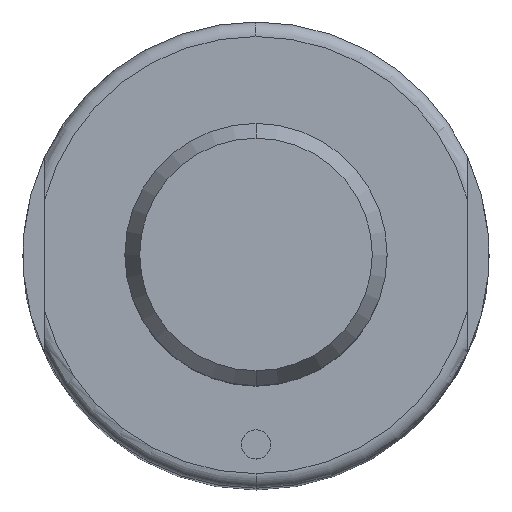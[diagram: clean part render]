
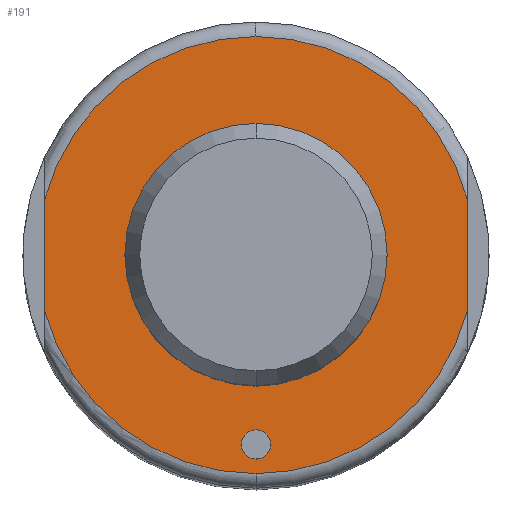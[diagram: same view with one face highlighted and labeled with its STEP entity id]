
A CAD part, top view. The second image highlights one B-rep face of the part: STEP entity #191.
In plain terms, the highlighted planar face has unit normal (0, 0, 1).
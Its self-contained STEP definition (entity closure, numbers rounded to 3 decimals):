
#115=FACE_BOUND('',#292,.T.);
#116=FACE_BOUND('',#293,.T.);
#117=FACE_BOUND('',#294,.T.);
#126=PLANE('',#862);
#191=ADVANCED_FACE('',(#115,#116,#117),#126,.T.);
#292=EDGE_LOOP('',(#515,#516,#517,#518,#519,#520));
#293=EDGE_LOOP('',(#521,#522));
#294=EDGE_LOOP('',(#523,#524));
#303=CIRCLE('',#774,9.);
#304=CIRCLE('',#776,9.);
#310=CIRCLE('',#786,1.);
#311=CIRCLE('',#788,1.);
#343=CIRCLE('',#846,15.);
#344=CIRCLE('',#848,15.);
#348=CIRCLE('',#854,15.);
#352=CIRCLE('',#860,15.);
#515=ORIENTED_EDGE('',*,*,#691,.F.);
#516=ORIENTED_EDGE('',*,*,#690,.F.);
#517=ORIENTED_EDGE('',*,*,#674,.F.);
#518=ORIENTED_EDGE('',*,*,#692,.F.);
#519=ORIENTED_EDGE('',*,*,#672,.F.);
#520=ORIENTED_EDGE('',*,*,#683,.F.);
#521=ORIENTED_EDGE('',*,*,#621,.F.);
#522=ORIENTED_EDGE('',*,*,#620,.F.);
#523=ORIENTED_EDGE('',*,*,#610,.T.);
#524=ORIENTED_EDGE('',*,*,#608,.T.);
#545=VERTEX_POINT('',#1117);
#546=VERTEX_POINT('',#1119);
#551=VERTEX_POINT('',#1138);
#554=VERTEX_POINT('',#1143);
#586=VERTEX_POINT('',#1259);
#588=VERTEX_POINT('',#1263);
#589=VERTEX_POINT('',#1274);
#591=VERTEX_POINT('',#1277);
#595=VERTEX_POINT('',#1298);
#600=VERTEX_POINT('',#1319);
#608=EDGE_CURVE('',#546,#545,#303,.T.);
#610=EDGE_CURVE('',#545,#546,#304,.T.);
#620=EDGE_CURVE('',#554,#551,#310,.T.);
#621=EDGE_CURVE('',#551,#554,#311,.T.);
#672=EDGE_CURVE('',#588,#586,#343,.T.);
#674=EDGE_CURVE('',#589,#591,#344,.T.);
#683=EDGE_CURVE('',#595,#588,#348,.T.);
#690=EDGE_CURVE('',#591,#600,#352,.T.);
#691=EDGE_CURVE('',#600,#595,#727,.T.);
#692=EDGE_CURVE('',#586,#589,#728,.T.);
#727=LINE('',#1322,#763);
#728=LINE('',#1323,#764);
#763=VECTOR('',#1089,1.);
#764=VECTOR('',#1090,1.);
#774=AXIS2_PLACEMENT_3D('',#1118,#884,#885);
#776=AXIS2_PLACEMENT_3D('',#1122,#889,#890);
#786=AXIS2_PLACEMENT_3D('',#1144,#913,#914);
#788=AXIS2_PLACEMENT_3D('',#1146,#917,#918);
#846=AXIS2_PLACEMENT_3D('',#1264,#1051,#1052);
#848=AXIS2_PLACEMENT_3D('',#1276,#1055,#1056);
#854=AXIS2_PLACEMENT_3D('',#1300,#1071,#1072);
#860=AXIS2_PLACEMENT_3D('',#1320,#1085,#1086);
#862=AXIS2_PLACEMENT_3D('',#1324,#1091,#1092);
#884=DIRECTION('',(0.,0.,-1.));
#885=DIRECTION('',(-1.,0.,0.));
#889=DIRECTION('',(0.,0.,-1.));
#890=DIRECTION('',(1.,0.,0.));
#913=DIRECTION('',(0.,0.,1.));
#914=DIRECTION('',(-1.,0.,0.));
#917=DIRECTION('',(0.,0.,1.));
#918=DIRECTION('',(1.,0.,0.));
#1051=DIRECTION('',(0.,0.,-1.));
#1052=DIRECTION('',(-1.,0.,0.));
#1055=DIRECTION('',(0.,0.,-1.));
#1056=DIRECTION('',(-1.,0.,0.));
#1071=DIRECTION('',(0.,0.,-1.));
#1072=DIRECTION('',(1.,0.,0.));
#1085=DIRECTION('',(0.,0.,-1.));
#1086=DIRECTION('',(1.,0.,0.));
#1089=DIRECTION('',(0.,1.,0.));
#1090=DIRECTION('',(0.,-1.,0.));
#1091=DIRECTION('',(0.,0.,1.));
#1092=DIRECTION('',(1.,0.,0.));
#1117=CARTESIAN_POINT('',(0.,-9.,73.));
#1118=CARTESIAN_POINT('',(0.,0.,73.));
#1119=CARTESIAN_POINT('',(0.,9.,73.));
#1122=CARTESIAN_POINT('',(0.,0.,73.));
#1138=CARTESIAN_POINT('',(0.,-12.,73.));
#1143=CARTESIAN_POINT('',(0.,-14.,73.));
#1144=CARTESIAN_POINT('',(0.,-13.,73.));
#1146=CARTESIAN_POINT('',(0.,-13.,73.));
#1259=CARTESIAN_POINT('',(14.5,3.841,73.));
#1263=CARTESIAN_POINT('',(0.,15.,73.));
#1264=CARTESIAN_POINT('',(0.,0.,73.));
#1274=CARTESIAN_POINT('',(14.5,-3.841,73.));
#1276=CARTESIAN_POINT('',(0.,0.,73.));
#1277=CARTESIAN_POINT('',(0.,-15.,73.));
#1298=CARTESIAN_POINT('',(-14.5,3.841,73.));
#1300=CARTESIAN_POINT('',(0.,0.,73.));
#1319=CARTESIAN_POINT('',(-14.5,-3.841,73.));
#1320=CARTESIAN_POINT('',(0.,0.,73.));
#1322=CARTESIAN_POINT('',(-14.5,0.,73.));
#1323=CARTESIAN_POINT('',(14.5,0.,73.));
#1324=CARTESIAN_POINT('',(0.,0.,73.));
